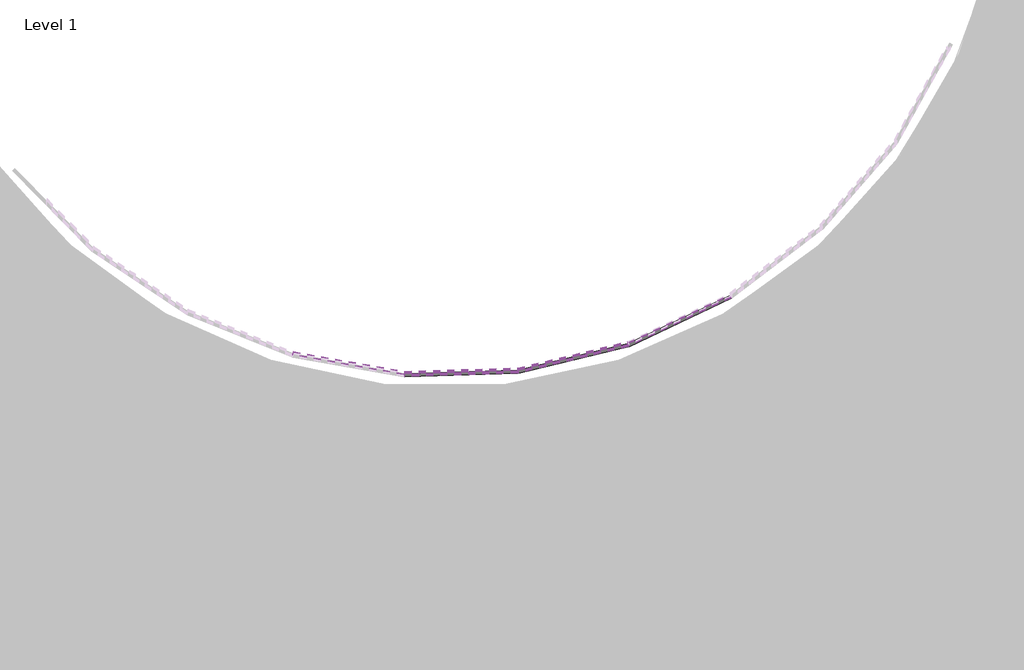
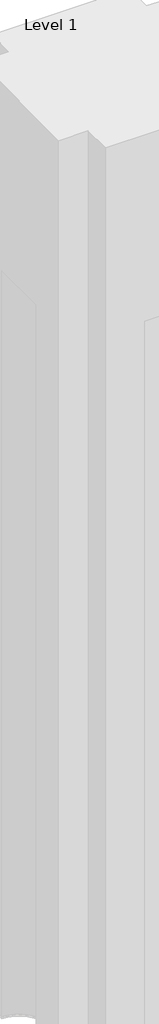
# One storey, part 18 of 20: 123 plates.
"""IFC4 building model written with IfcOpenShell, lengths in millimetres."""

from ifc_helpers import new_model, si_unit, origin, place, context, project, spatial, transform, mapped, element, save
from components import system_panel_glazed_d77d1ebf

model = new_model("IFC4")

# Units and contexts
model_context = context("Model", 3, world=origin())
ifc_project = project(units=[si_unit("LENGTHUNIT", "METRE", prefix="MILLI")], contexts=[model_context])

# Site, building, storey
site = spatial("IfcSite", under=ifc_project)
building = spatial("IfcBuilding", under=site)
storey = spatial("IfcBuildingStorey", under=building, Name="Level 1", Elevation=0.0)

# Plates
placement = place(None, origin())
system_panel_glazed_shape = system_panel_glazed_d77d1ebf(model_context)
element("IfcPlate", 1, ObjectType="System Panel : Glazed", at=placement, inside=storey, context=model_context, shape_type="MappedRepresentation", body=[
    mapped(system_panel_glazed_shape, transform((4552.3376348, 4749.7309007, 0.0), x_axis=(0.9722724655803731, 0.2338509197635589, 0.0), y_axis=(-0.2338509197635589, 0.9722724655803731, 0.0), z_axis=(0.0, 0.0, 1.0))),
])
element("IfcPlate", 2, ObjectType="System Panel : Glazed", at=placement, inside=storey, context=model_context, shape_type="MappedRepresentation", body=[
    mapped(system_panel_glazed_shape, transform((5410.1290798, 5052.2006253, 0.0), x_axis=(0.9039117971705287, 0.42771890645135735, 0.0), y_axis=(-0.42771890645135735, 0.9039117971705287, 0.0), z_axis=(0.0, 0.0, 1.0))),
])
element("IfcPlate", 3, ObjectType="System Panel : Glazed", at=placement, inside=storey, context=model_context, shape_type="MappedRepresentation", body=[
    mapped(system_panel_glazed_shape, transform((4552.3376348, 4749.7309007, 3048.0), x_axis=(0.9722724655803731, 0.2338509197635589, 0.0), y_axis=(-0.2338509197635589, 0.9722724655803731, 0.0), z_axis=(0.0, 0.0, 1.0))),
])
element("IfcPlate", 4, ObjectType="System Panel : Glazed", at=placement, inside=storey, context=model_context, shape_type="MappedRepresentation", body=[
    mapped(system_panel_glazed_shape, transform((5410.1290798, 5052.2006253, 3048.0), x_axis=(0.9039117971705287, 0.42771890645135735, 0.0), y_axis=(-0.42771890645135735, 0.9039117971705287, 0.0), z_axis=(0.0, 0.0, 1.0))),
])
element("IfcPlate", 5, ObjectType="System Panel : Glazed", at=placement, inside=storey, context=model_context, shape_type="MappedRepresentation", body=[
    mapped(system_panel_glazed_shape, transform((4552.3376348, 4749.7309007, 6096.0), x_axis=(0.9722724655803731, 0.2338509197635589, 0.0), y_axis=(-0.2338509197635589, 0.9722724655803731, 0.0), z_axis=(0.0, 0.0, 1.0))),
])
element("IfcPlate", 6, ObjectType="System Panel : Glazed", at=placement, inside=storey, context=model_context, shape_type="MappedRepresentation", body=[
    mapped(system_panel_glazed_shape, transform((5410.1290798, 5052.2006253, 6096.0), x_axis=(0.9039117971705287, 0.42771890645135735, 0.0), y_axis=(-0.42771890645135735, 0.9039117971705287, 0.0), z_axis=(0.0, 0.0, 1.0))),
])
element("IfcPlate", 7, ObjectType="System Panel : Glazed", at=placement, inside=storey, context=model_context, shape_type="MappedRepresentation", body=[
    mapped(system_panel_glazed_shape, transform((4552.3376348, 4749.7309007, 9144.0), x_axis=(0.9722724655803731, 0.2338509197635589, 0.0), y_axis=(-0.2338509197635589, 0.9722724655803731, 0.0), z_axis=(0.0, 0.0, 1.0))),
])
element("IfcPlate", 8, ObjectType="System Panel : Glazed", at=placement, inside=storey, context=model_context, shape_type="MappedRepresentation", body=[
    mapped(system_panel_glazed_shape, transform((5410.1290798, 5052.2006253, 9144.0), x_axis=(0.9039117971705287, 0.42771890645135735, 0.0), y_axis=(-0.42771890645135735, 0.9039117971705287, 0.0), z_axis=(0.0, 0.0, 1.0))),
])
element("IfcPlate", 9, ObjectType="System Panel : Glazed", at=placement, inside=storey, context=model_context, shape_type="MappedRepresentation", body=[
    mapped(system_panel_glazed_shape, transform((4552.3376348, 4749.7309007, 12192.0), x_axis=(0.9722724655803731, 0.2338509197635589, 0.0), y_axis=(-0.2338509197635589, 0.9722724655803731, 0.0), z_axis=(0.0, 0.0, 1.0))),
])
element("IfcPlate", 10, ObjectType="System Panel : Glazed", at=placement, inside=storey, context=model_context, shape_type="MappedRepresentation", body=[
    mapped(system_panel_glazed_shape, transform((5410.1290798, 5052.2006253, 12192.0), x_axis=(0.9039117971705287, 0.42771890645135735, 0.0), y_axis=(-0.42771890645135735, 0.9039117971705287, 0.0), z_axis=(0.0, 0.0, 1.0))),
])
element("IfcPlate", 11, ObjectType="System Panel : Glazed", at=placement, inside=storey, context=model_context, shape_type="MappedRepresentation", body=[
    mapped(system_panel_glazed_shape, transform((4552.3376348, 4749.7309007, 15240.0), x_axis=(0.9722724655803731, 0.2338509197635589, 0.0), y_axis=(-0.2338509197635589, 0.9722724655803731, 0.0), z_axis=(0.0, 0.0, 1.0))),
])
element("IfcPlate", 12, ObjectType="System Panel : Glazed", at=placement, inside=storey, context=model_context, shape_type="MappedRepresentation", body=[
    mapped(system_panel_glazed_shape, transform((5410.1290798, 5052.2006253, 15240.0), x_axis=(0.9039117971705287, 0.42771890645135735, 0.0), y_axis=(-0.42771890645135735, 0.9039117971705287, 0.0), z_axis=(0.0, 0.0, 1.0))),
])
element("IfcPlate", 13, ObjectType="System Panel : Glazed", at=placement, inside=storey, context=model_context, shape_type="MappedRepresentation", body=[
    mapped(system_panel_glazed_shape, transform((4552.3376348, 4749.7309007, 18288.0), x_axis=(0.9722724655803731, 0.23385091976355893, 0.0), y_axis=(-0.23385091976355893, 0.9722724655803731, 0.0), z_axis=(0.0, 0.0, 1.0))),
])
element("IfcPlate", 14, ObjectType="System Panel : Glazed", at=placement, inside=storey, context=model_context, shape_type="MappedRepresentation", body=[
    mapped(system_panel_glazed_shape, transform((5410.1290798, 5052.2006253, 18288.0), x_axis=(0.9039117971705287, 0.42771890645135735, 0.0), y_axis=(-0.42771890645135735, 0.9039117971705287, 0.0), z_axis=(0.0, 0.0, 1.0))),
])
element("IfcPlate", 15, ObjectType="System Panel : Glazed", at=placement, inside=storey, context=model_context, shape_type="MappedRepresentation", body=[
    mapped(system_panel_glazed_shape, transform((4552.3376348, 4749.7309007, 21336.0), x_axis=(0.9722724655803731, 0.2338509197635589, 0.0), y_axis=(-0.2338509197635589, 0.9722724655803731, 0.0), z_axis=(0.0, 0.0, 1.0))),
])
element("IfcPlate", 16, ObjectType="System Panel : Glazed", at=placement, inside=storey, context=model_context, shape_type="MappedRepresentation", body=[
    mapped(system_panel_glazed_shape, transform((5410.1290798, 5052.2006253, 21336.0), x_axis=(0.9039117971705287, 0.42771890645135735, 0.0), y_axis=(-0.42771890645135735, 0.9039117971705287, 0.0), z_axis=(0.0, 0.0, 1.0))),
])
element("IfcPlate", 17, ObjectType="System Panel : Glazed", at=placement, inside=storey, context=model_context, shape_type="MappedRepresentation", body=[
    mapped(system_panel_glazed_shape, transform((4552.3376348, 4749.7309007, 24384.0), x_axis=(0.9722724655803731, 0.2338509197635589, 0.0), y_axis=(-0.2338509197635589, 0.9722724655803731, 0.0), z_axis=(0.0, 0.0, 1.0))),
])
element("IfcPlate", 18, ObjectType="System Panel : Glazed", at=placement, inside=storey, context=model_context, shape_type="MappedRepresentation", body=[
    mapped(system_panel_glazed_shape, transform((5410.1290798, 5052.2006253, 24384.0), x_axis=(0.9039117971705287, 0.42771890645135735, 0.0), y_axis=(-0.42771890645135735, 0.9039117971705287, 0.0), z_axis=(0.0, 0.0, 1.0))),
])
element("IfcPlate", 19, ObjectType="System Panel : Glazed", at=placement, inside=storey, context=model_context, shape_type="MappedRepresentation", body=[
    mapped(system_panel_glazed_shape, transform((4552.3376348, 4749.7309007, 27432.0), x_axis=(0.9722724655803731, 0.2338509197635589, 0.0), y_axis=(-0.2338509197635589, 0.9722724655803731, 0.0), z_axis=(0.0, 0.0, 1.0))),
])
element("IfcPlate", 20, ObjectType="System Panel : Glazed", at=placement, inside=storey, context=model_context, shape_type="MappedRepresentation", body=[
    mapped(system_panel_glazed_shape, transform((5410.1290798, 5052.2006253, 27432.0), x_axis=(0.9039117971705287, 0.42771890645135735, 0.0), y_axis=(-0.42771890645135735, 0.9039117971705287, 0.0), z_axis=(0.0, 0.0, 1.0))),
])
element("IfcPlate", 21, ObjectType="System Panel : Glazed", at=placement, inside=storey, context=model_context, shape_type="MappedRepresentation", body=[
    mapped(system_panel_glazed_shape, transform((4552.3376348, 4749.7309007, 30480.0), x_axis=(0.9722724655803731, 0.2338509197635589, 0.0), y_axis=(-0.2338509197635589, 0.9722724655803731, 0.0), z_axis=(0.0, 0.0, 1.0))),
])
element("IfcPlate", 22, ObjectType="System Panel : Glazed", at=placement, inside=storey, context=model_context, shape_type="MappedRepresentation", body=[
    mapped(system_panel_glazed_shape, transform((5410.1290798, 5052.2006253, 30480.0), x_axis=(0.9039117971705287, 0.42771890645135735, 0.0), y_axis=(-0.42771890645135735, 0.9039117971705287, 0.0), z_axis=(0.0, 0.0, 1.0))),
])
element("IfcPlate", 23, ObjectType="System Panel : Glazed", at=placement, inside=storey, context=model_context, shape_type="MappedRepresentation", body=[
    mapped(system_panel_glazed_shape, transform((4552.3376348, 4749.7309007, 33528.0), x_axis=(0.9722724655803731, 0.2338509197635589, 0.0), y_axis=(-0.2338509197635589, 0.9722724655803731, 0.0), z_axis=(0.0, 0.0, 1.0))),
])
element("IfcPlate", 24, ObjectType="System Panel : Glazed", at=placement, inside=storey, context=model_context, shape_type="MappedRepresentation", body=[
    mapped(system_panel_glazed_shape, transform((5410.1290798, 5052.2006253, 33528.0), x_axis=(0.9039117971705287, 0.42771890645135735, 0.0), y_axis=(-0.42771890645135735, 0.9039117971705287, 0.0), z_axis=(0.0, 0.0, 1.0))),
])
element("IfcPlate", 25, ObjectType="System Panel : Glazed", at=placement, inside=storey, context=model_context, shape_type="MappedRepresentation", body=[
    mapped(system_panel_glazed_shape, transform((4552.3376348, 4749.7309007, 36576.0), x_axis=(0.9722724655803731, 0.2338509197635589, 0.0), y_axis=(-0.2338509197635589, 0.9722724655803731, 0.0), z_axis=(0.0, 0.0, 1.0))),
])
element("IfcPlate", 26, ObjectType="System Panel : Glazed", at=placement, inside=storey, context=model_context, shape_type="MappedRepresentation", body=[
    mapped(system_panel_glazed_shape, transform((5410.1290798, 5052.2006253, 36576.0), x_axis=(0.9039117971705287, 0.42771890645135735, 0.0), y_axis=(-0.42771890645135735, 0.9039117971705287, 0.0), z_axis=(0.0, 0.0, 1.0))),
])
element("IfcPlate", 27, ObjectType="System Panel : Glazed", at=placement, inside=storey, context=model_context, shape_type="MappedRepresentation", body=[
    mapped(system_panel_glazed_shape, transform((4552.3376348, 4749.7309007, 39624.0), x_axis=(0.9722724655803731, 0.2338509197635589, 0.0), y_axis=(-0.2338509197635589, 0.9722724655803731, 0.0), z_axis=(0.0, 0.0, 1.0))),
])
element("IfcPlate", 28, ObjectType="System Panel : Glazed", at=placement, inside=storey, context=model_context, shape_type="MappedRepresentation", body=[
    mapped(system_panel_glazed_shape, transform((5410.1290798, 5052.2006253, 39624.0), x_axis=(0.9039117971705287, 0.42771890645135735, 0.0), y_axis=(-0.42771890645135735, 0.9039117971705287, 0.0), z_axis=(0.0, 0.0, 1.0))),
])
element("IfcPlate", 29, ObjectType="System Panel : Glazed", at=placement, inside=storey, context=model_context, shape_type="MappedRepresentation", body=[
    mapped(system_panel_glazed_shape, transform((4552.3376348, 4749.7309007, 42672.0), x_axis=(0.9722724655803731, 0.2338509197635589, 0.0), y_axis=(-0.2338509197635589, 0.9722724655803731, 0.0), z_axis=(0.0, 0.0, 1.0))),
])
element("IfcPlate", 30, ObjectType="System Panel : Glazed", at=placement, inside=storey, context=model_context, shape_type="MappedRepresentation", body=[
    mapped(system_panel_glazed_shape, transform((5410.1290798, 5052.2006253, 42672.0), x_axis=(0.9039117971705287, 0.42771890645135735, 0.0), y_axis=(-0.42771890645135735, 0.9039117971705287, 0.0), z_axis=(0.0, 0.0, 1.0))),
])
element("IfcPlate", 31, ObjectType="System Panel : Glazed", at=placement, inside=storey, context=model_context, shape_type="MappedRepresentation", body=[
    mapped(system_panel_glazed_shape, transform((4552.3376348, 4749.7309007, 45720.0), x_axis=(0.9722724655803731, 0.2338509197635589, 0.0), y_axis=(-0.2338509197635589, 0.9722724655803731, 0.0), z_axis=(0.0, 0.0, 1.0))),
])
element("IfcPlate", 32, ObjectType="System Panel : Glazed", at=placement, inside=storey, context=model_context, shape_type="MappedRepresentation", body=[
    mapped(system_panel_glazed_shape, transform((5410.1290798, 5052.2006253, 45720.0), x_axis=(0.9039117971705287, 0.42771890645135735, 0.0), y_axis=(-0.42771890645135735, 0.9039117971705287, 0.0), z_axis=(0.0, 0.0, 1.0))),
])
element("IfcPlate", 33, ObjectType="System Panel : Glazed", at=placement, inside=storey, context=model_context, shape_type="MappedRepresentation", body=[
    mapped(system_panel_glazed_shape, transform((4552.3376348, 4749.7309007, 48768.0), x_axis=(0.9722724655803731, 0.2338509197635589, 0.0), y_axis=(-0.2338509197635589, 0.9722724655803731, 0.0), z_axis=(0.0, 0.0, 1.0))),
])
element("IfcPlate", 34, ObjectType="System Panel : Glazed", at=placement, inside=storey, context=model_context, shape_type="MappedRepresentation", body=[
    mapped(system_panel_glazed_shape, transform((5410.1290798, 5052.2006253, 48768.0), x_axis=(0.9039117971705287, 0.42771890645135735, 0.0), y_axis=(-0.42771890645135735, 0.9039117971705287, 0.0), z_axis=(0.0, 0.0, 1.0))),
])
element("IfcPlate", 35, ObjectType="System Panel : Glazed", at=placement, inside=storey, context=model_context, shape_type="MappedRepresentation", body=[
    mapped(system_panel_glazed_shape, transform((4552.3376348, 4749.7309007, 51816.0), x_axis=(0.9722724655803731, 0.2338509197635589, 0.0), y_axis=(-0.2338509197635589, 0.9722724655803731, 0.0), z_axis=(0.0, 0.0, 1.0))),
])
element("IfcPlate", 36, ObjectType="System Panel : Glazed", at=placement, inside=storey, context=model_context, shape_type="MappedRepresentation", body=[
    mapped(system_panel_glazed_shape, transform((5410.1290798, 5052.2006253, 51816.0), x_axis=(0.9039117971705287, 0.42771890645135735, 0.0), y_axis=(-0.42771890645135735, 0.9039117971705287, 0.0), z_axis=(0.0, 0.0, 1.0))),
])
element("IfcPlate", 37, ObjectType="System Panel : Glazed", at=placement, inside=storey, context=model_context, shape_type="MappedRepresentation", body=[
    mapped(system_panel_glazed_shape, transform((4552.3376348, 4749.7309007, 54864.0), x_axis=(0.9722724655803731, 0.2338509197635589, 0.0), y_axis=(-0.2338509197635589, 0.9722724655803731, 0.0), z_axis=(0.0, 0.0, 1.0))),
])
element("IfcPlate", 38, ObjectType="System Panel : Glazed", at=placement, inside=storey, context=model_context, shape_type="MappedRepresentation", body=[
    mapped(system_panel_glazed_shape, transform((5410.1290798, 5052.2006253, 54864.0), x_axis=(0.9039117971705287, 0.42771890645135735, 0.0), y_axis=(-0.42771890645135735, 0.9039117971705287, 0.0), z_axis=(0.0, 0.0, 1.0))),
])
element("IfcPlate", 39, ObjectType="System Panel : Glazed", at=placement, inside=storey, context=model_context, shape_type="MappedRepresentation", body=[
    mapped(system_panel_glazed_shape, transform((4552.3376348, 4749.7309007, 57912.0), x_axis=(0.9722724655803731, 0.2338509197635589, 0.0), y_axis=(-0.2338509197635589, 0.9722724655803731, 0.0), z_axis=(0.0, 0.0, 1.0))),
])
element("IfcPlate", 40, ObjectType="System Panel : Glazed", at=placement, inside=storey, context=model_context, shape_type="MappedRepresentation", body=[
    mapped(system_panel_glazed_shape, transform((5410.1290798, 5052.2006253, 57912.0), x_axis=(0.9039117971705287, 0.42771890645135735, 0.0), y_axis=(-0.42771890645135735, 0.9039117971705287, 0.0), z_axis=(0.0, 0.0, 1.0))),
])
element("IfcPlate", 41, ObjectType="System Panel : Glazed", at=placement, inside=storey, context=model_context, shape_type="MappedRepresentation", body=[
    mapped(system_panel_glazed_shape, transform((4552.3376348, 4749.7309007, 60960.0), x_axis=(0.9722724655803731, 0.2338509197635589, 0.0), y_axis=(-0.2338509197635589, 0.9722724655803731, 0.0), z_axis=(0.0, 0.0, 1.0))),
])
element("IfcPlate", 42, ObjectType="System Panel : Glazed", at=placement, inside=storey, context=model_context, shape_type="MappedRepresentation", body=[
    mapped(system_panel_glazed_shape, transform((5410.1290798, 5052.2006253, 60960.0), x_axis=(0.9039117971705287, 0.42771890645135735, 0.0), y_axis=(-0.42771890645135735, 0.9039117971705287, 0.0), z_axis=(0.0, 0.0, 1.0))),
])
element("IfcPlate", 43, ObjectType="System Panel : Glazed", at=placement, inside=storey, context=model_context, shape_type="MappedRepresentation", body=[
    mapped(system_panel_glazed_shape, transform((4552.3376348, 4749.7309007, 64008.0), x_axis=(0.9722724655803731, 0.2338509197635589, 0.0), y_axis=(-0.2338509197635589, 0.9722724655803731, 0.0), z_axis=(0.0, 0.0, 1.0))),
])
element("IfcPlate", 44, ObjectType="System Panel : Glazed", at=placement, inside=storey, context=model_context, shape_type="MappedRepresentation", body=[
    mapped(system_panel_glazed_shape, transform((5410.1290798, 5052.2006253, 64008.0), x_axis=(0.9039117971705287, 0.42771890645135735, 0.0), y_axis=(-0.42771890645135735, 0.9039117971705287, 0.0), z_axis=(0.0, 0.0, 1.0))),
])
element("IfcPlate", 45, ObjectType="System Panel : Glazed", at=placement, inside=storey, context=model_context, shape_type="MappedRepresentation", body=[
    mapped(system_panel_glazed_shape, transform((4552.3376348, 4749.7309007, 67056.0), x_axis=(0.9722724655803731, 0.2338509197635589, 0.0), y_axis=(-0.2338509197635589, 0.9722724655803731, 0.0), z_axis=(0.0, 0.0, 1.0))),
])
element("IfcPlate", 46, ObjectType="System Panel : Glazed", at=placement, inside=storey, context=model_context, shape_type="MappedRepresentation", body=[
    mapped(system_panel_glazed_shape, transform((5410.1290798, 5052.2006253, 67056.0), x_axis=(0.9039117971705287, 0.42771890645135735, 0.0), y_axis=(-0.42771890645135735, 0.9039117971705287, 0.0), z_axis=(0.0, 0.0, 1.0))),
])
element("IfcPlate", 47, ObjectType="System Panel : Glazed", at=placement, inside=storey, context=model_context, shape_type="MappedRepresentation", body=[
    mapped(system_panel_glazed_shape, transform((4552.3376348, 4749.7309007, 70104.0), x_axis=(0.9722724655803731, 0.2338509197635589, 0.0), y_axis=(-0.2338509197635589, 0.9722724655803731, 0.0), z_axis=(0.0, 0.0, 1.0))),
])
element("IfcPlate", 48, ObjectType="System Panel : Glazed", at=placement, inside=storey, context=model_context, shape_type="MappedRepresentation", body=[
    mapped(system_panel_glazed_shape, transform((5410.1290798, 5052.2006253, 70104.0), x_axis=(0.9039117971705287, 0.42771890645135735, 0.0), y_axis=(-0.42771890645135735, 0.9039117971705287, 0.0), z_axis=(0.0, 0.0, 1.0))),
])
element("IfcPlate", 49, ObjectType="System Panel : Glazed", at=placement, inside=storey, context=model_context, shape_type="MappedRepresentation", body=[
    mapped(system_panel_glazed_shape, transform((4552.3376348, 4749.7309007, 73152.0), x_axis=(0.9722724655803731, 0.2338509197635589, 0.0), y_axis=(-0.2338509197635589, 0.9722724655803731, 0.0), z_axis=(0.0, 0.0, 1.0))),
])
element("IfcPlate", 50, ObjectType="System Panel : Glazed", at=placement, inside=storey, context=model_context, shape_type="MappedRepresentation", body=[
    mapped(system_panel_glazed_shape, transform((5410.1290798, 5052.2006253, 73152.0), x_axis=(0.9039117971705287, 0.42771890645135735, 0.0), y_axis=(-0.42771890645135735, 0.9039117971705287, 0.0), z_axis=(0.0, 0.0, 1.0))),
])
element("IfcPlate", 51, ObjectType="System Panel : Glazed", at=placement, inside=storey, context=model_context, shape_type="MappedRepresentation", body=[
    mapped(system_panel_glazed_shape, transform((4552.3376348, 4749.7309007, 76200.0), x_axis=(0.9722724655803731, 0.2338509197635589, 0.0), y_axis=(-0.2338509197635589, 0.9722724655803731, 0.0), z_axis=(0.0, 0.0, 1.0))),
])
element("IfcPlate", 52, ObjectType="System Panel : Glazed", at=placement, inside=storey, context=model_context, shape_type="MappedRepresentation", body=[
    mapped(system_panel_glazed_shape, transform((5410.1290798, 5052.2006253, 76200.0), x_axis=(0.9039117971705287, 0.42771890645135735, 0.0), y_axis=(-0.42771890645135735, 0.9039117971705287, 0.0), z_axis=(0.0, 0.0, 1.0))),
])
element("IfcPlate", 53, ObjectType="System Panel : Glazed", at=placement, inside=storey, context=model_context, shape_type="MappedRepresentation", body=[
    mapped(system_panel_glazed_shape, transform((4552.3376348, 4749.7309007, 79248.0), x_axis=(0.9722724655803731, 0.2338509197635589, 0.0), y_axis=(-0.2338509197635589, 0.9722724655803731, 0.0), z_axis=(0.0, 0.0, 1.0))),
])
element("IfcPlate", 54, ObjectType="System Panel : Glazed", at=placement, inside=storey, context=model_context, shape_type="MappedRepresentation", body=[
    mapped(system_panel_glazed_shape, transform((5410.1290798, 5052.2006253, 79248.0), x_axis=(0.9039117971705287, 0.42771890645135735, 0.0), y_axis=(-0.42771890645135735, 0.9039117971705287, 0.0), z_axis=(0.0, 0.0, 1.0))),
])
element("IfcPlate", 55, ObjectType="System Panel : Glazed", at=placement, inside=storey, context=model_context, shape_type="MappedRepresentation", body=[
    mapped(system_panel_glazed_shape, transform((4552.3376348, 4749.7309007, 82296.0), x_axis=(0.9722724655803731, 0.2338509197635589, 0.0), y_axis=(-0.2338509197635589, 0.9722724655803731, 0.0), z_axis=(0.0, 0.0, 1.0))),
])
element("IfcPlate", 56, ObjectType="System Panel : Glazed", at=placement, inside=storey, context=model_context, shape_type="MappedRepresentation", body=[
    mapped(system_panel_glazed_shape, transform((5410.1290798, 5052.2006253, 82296.0), x_axis=(0.9039117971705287, 0.42771890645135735, 0.0), y_axis=(-0.42771890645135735, 0.9039117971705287, 0.0), z_axis=(0.0, 0.0, 1.0))),
])
element("IfcPlate", 57, ObjectType="System Panel : Glazed", at=placement, inside=storey, context=model_context, shape_type="MappedRepresentation", body=[
    mapped(system_panel_glazed_shape, transform((4552.3376348, 4749.7309007, 85344.0), x_axis=(0.9722724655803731, 0.2338509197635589, 0.0), y_axis=(-0.2338509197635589, 0.9722724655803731, 0.0), z_axis=(0.0, 0.0, 1.0))),
])
element("IfcPlate", 58, ObjectType="System Panel : Glazed", at=placement, inside=storey, context=model_context, shape_type="MappedRepresentation", body=[
    mapped(system_panel_glazed_shape, transform((5410.1290798, 5052.2006253, 85344.0), x_axis=(0.9039117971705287, 0.42771890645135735, 0.0), y_axis=(-0.42771890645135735, 0.9039117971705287, 0.0), z_axis=(0.0, 0.0, 1.0))),
])
element("IfcPlate", 59, ObjectType="System Panel : Glazed", at=placement, inside=storey, context=model_context, shape_type="MappedRepresentation", body=[
    mapped(system_panel_glazed_shape, transform((4552.3376348, 4749.7309007, 88392.0), x_axis=(0.9722724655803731, 0.2338509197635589, 0.0), y_axis=(-0.2338509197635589, 0.9722724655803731, 0.0), z_axis=(0.0, 0.0, 1.0))),
])
element("IfcPlate", 60, ObjectType="System Panel : Glazed", at=placement, inside=storey, context=model_context, shape_type="MappedRepresentation", body=[
    mapped(system_panel_glazed_shape, transform((5410.1290798, 5052.2006253, 88392.0), x_axis=(0.9039117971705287, 0.42771890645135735, 0.0), y_axis=(-0.42771890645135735, 0.9039117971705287, 0.0), z_axis=(0.0, 0.0, 1.0))),
])
element("IfcPlate", 61, ObjectType="System Panel : Glazed", at=placement, inside=storey, context=model_context, shape_type="MappedRepresentation", body=[
    mapped(system_panel_glazed_shape, transform((4552.3376348, 4749.7309007, 91440.0), x_axis=(0.9722724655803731, 0.2338509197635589, 0.0), y_axis=(-0.2338509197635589, 0.9722724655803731, 0.0), z_axis=(0.0, 0.0, 1.0))),
])
element("IfcPlate", 62, ObjectType="System Panel : Glazed", at=placement, inside=storey, context=model_context, shape_type="MappedRepresentation", body=[
    mapped(system_panel_glazed_shape, transform((4552.3376348, 4749.7309007, 94488.0), x_axis=(0.9722724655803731, 0.2338509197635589, 0.0), y_axis=(-0.2338509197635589, 0.9722724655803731, 0.0), z_axis=(0.0, 0.0, 1.0))),
])
element("IfcPlate", 63, ObjectType="System Panel : Glazed", at=placement, inside=storey, context=model_context, shape_type="MappedRepresentation", body=[
    mapped(system_panel_glazed_shape, transform((4552.3376348, 4749.7309007, 97536.0), x_axis=(0.9722724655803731, 0.2338509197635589, 0.0), y_axis=(-0.2338509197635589, 0.9722724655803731, 0.0), z_axis=(0.0, 0.0, 1.0))),
])
element("IfcPlate", 64, ObjectType="System Panel : Glazed", at=placement, inside=storey, context=model_context, shape_type="MappedRepresentation", body=[
    mapped(system_panel_glazed_shape, transform((4552.3376348, 4749.7309007, 100584.0), x_axis=(0.9722724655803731, 0.2338509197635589, 0.0), y_axis=(-0.2338509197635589, 0.9722724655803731, 0.0), z_axis=(0.0, 0.0, 1.0))),
])
element("IfcPlate", 65, ObjectType="System Panel : Glazed", at=placement, inside=storey, context=model_context, shape_type="MappedRepresentation", body=[
    mapped(system_panel_glazed_shape, transform((3650.8218363, 4629.0521442, 0.0), x_axis=(0.9995468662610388, 0.03010086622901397, 0.0), y_axis=(-0.03010086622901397, 0.9995468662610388, 0.0), z_axis=(0.0, 0.0, 1.0))),
])
element("IfcPlate", 66, ObjectType="System Panel : Glazed", at=placement, inside=storey, context=model_context, shape_type="MappedRepresentation", body=[
    mapped(system_panel_glazed_shape, transform((3650.8218363, 4629.0521442, 3048.0), x_axis=(0.9995468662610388, 0.03010086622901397, 0.0), y_axis=(-0.03010086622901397, 0.9995468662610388, 0.0), z_axis=(0.0, 0.0, 1.0))),
])
element("IfcPlate", 67, ObjectType="System Panel : Glazed", at=placement, inside=storey, context=model_context, shape_type="MappedRepresentation", body=[
    mapped(system_panel_glazed_shape, transform((3650.8218363, 4629.0521442, 6096.0), x_axis=(0.9995468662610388, 0.03010086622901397, 0.0), y_axis=(-0.03010086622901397, 0.9995468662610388, 0.0), z_axis=(0.0, 0.0, 1.0))),
])
element("IfcPlate", 68, ObjectType="System Panel : Glazed", at=placement, inside=storey, context=model_context, shape_type="MappedRepresentation", body=[
    mapped(system_panel_glazed_shape, transform((3650.8218363, 4629.0521442, 9144.0), x_axis=(0.9995468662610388, 0.03010086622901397, 0.0), y_axis=(-0.03010086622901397, 0.9995468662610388, 0.0), z_axis=(0.0, 0.0, 1.0))),
])
element("IfcPlate", 69, ObjectType="System Panel : Glazed", at=placement, inside=storey, context=model_context, shape_type="MappedRepresentation", body=[
    mapped(system_panel_glazed_shape, transform((3650.8218363, 4629.0521442, 12192.0), x_axis=(0.9995468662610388, 0.03010086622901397, 0.0), y_axis=(-0.03010086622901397, 0.9995468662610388, 0.0), z_axis=(0.0, 0.0, 1.0))),
])
element("IfcPlate", 70, ObjectType="System Panel : Glazed", at=placement, inside=storey, context=model_context, shape_type="MappedRepresentation", body=[
    mapped(system_panel_glazed_shape, transform((3650.8218363, 4629.0521442, 15240.0), x_axis=(0.9995468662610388, 0.03010086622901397, 0.0), y_axis=(-0.03010086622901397, 0.9995468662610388, 0.0), z_axis=(0.0, 0.0, 1.0))),
])
element("IfcPlate", 71, ObjectType="System Panel : Glazed", at=placement, inside=storey, context=model_context, shape_type="MappedRepresentation", body=[
    mapped(system_panel_glazed_shape, transform((3650.8218363, 4629.0521442, 18288.0), x_axis=(0.9995468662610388, 0.03010086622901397, 0.0), y_axis=(-0.03010086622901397, 0.9995468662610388, 0.0), z_axis=(0.0, 0.0, 1.0))),
])
element("IfcPlate", 72, ObjectType="System Panel : Glazed", at=placement, inside=storey, context=model_context, shape_type="MappedRepresentation", body=[
    mapped(system_panel_glazed_shape, transform((3650.8218363, 4629.0521442, 21336.0), x_axis=(0.9995468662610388, 0.03010086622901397, 0.0), y_axis=(-0.03010086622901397, 0.9995468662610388, 0.0), z_axis=(0.0, 0.0, 1.0))),
])
element("IfcPlate", 73, ObjectType="System Panel : Glazed", at=placement, inside=storey, context=model_context, shape_type="MappedRepresentation", body=[
    mapped(system_panel_glazed_shape, transform((3650.8218363, 4629.0521442, 24384.0), x_axis=(0.9995468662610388, 0.03010086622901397, 0.0), y_axis=(-0.03010086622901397, 0.9995468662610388, 0.0), z_axis=(0.0, 0.0, 1.0))),
])
element("IfcPlate", 74, ObjectType="System Panel : Glazed", at=placement, inside=storey, context=model_context, shape_type="MappedRepresentation", body=[
    mapped(system_panel_glazed_shape, transform((3650.8218363, 4629.0521442, 27432.0), x_axis=(0.9995468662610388, 0.03010086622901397, 0.0), y_axis=(-0.03010086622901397, 0.9995468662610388, 0.0), z_axis=(0.0, 0.0, 1.0))),
])
element("IfcPlate", 75, ObjectType="System Panel : Glazed", at=placement, inside=storey, context=model_context, shape_type="MappedRepresentation", body=[
    mapped(system_panel_glazed_shape, transform((3650.8218363, 4629.0521442, 30480.0), x_axis=(0.9995468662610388, 0.03010086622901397, 0.0), y_axis=(-0.03010086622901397, 0.9995468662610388, 0.0), z_axis=(0.0, 0.0, 1.0))),
])
element("IfcPlate", 76, ObjectType="System Panel : Glazed", at=placement, inside=storey, context=model_context, shape_type="MappedRepresentation", body=[
    mapped(system_panel_glazed_shape, transform((3650.8218363, 4629.0521442, 33528.0), x_axis=(0.9995468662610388, 0.03010086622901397, 0.0), y_axis=(-0.03010086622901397, 0.9995468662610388, 0.0), z_axis=(0.0, 0.0, 1.0))),
])
element("IfcPlate", 77, ObjectType="System Panel : Glazed", at=placement, inside=storey, context=model_context, shape_type="MappedRepresentation", body=[
    mapped(system_panel_glazed_shape, transform((3650.8218363, 4629.0521442, 36576.0), x_axis=(0.9995468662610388, 0.03010086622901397, 0.0), y_axis=(-0.03010086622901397, 0.9995468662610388, 0.0), z_axis=(0.0, 0.0, 1.0))),
])
element("IfcPlate", 78, ObjectType="System Panel : Glazed", at=placement, inside=storey, context=model_context, shape_type="MappedRepresentation", body=[
    mapped(system_panel_glazed_shape, transform((3650.8218363, 4629.0521442, 39624.0), x_axis=(0.9995468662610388, 0.03010086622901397, 0.0), y_axis=(-0.03010086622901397, 0.9995468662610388, 0.0), z_axis=(0.0, 0.0, 1.0))),
])
element("IfcPlate", 79, ObjectType="System Panel : Glazed", at=placement, inside=storey, context=model_context, shape_type="MappedRepresentation", body=[
    mapped(system_panel_glazed_shape, transform((3650.8218363, 4629.0521442, 42672.0), x_axis=(0.9995468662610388, 0.03010086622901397, 0.0), y_axis=(-0.03010086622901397, 0.9995468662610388, 0.0), z_axis=(0.0, 0.0, 1.0))),
])
element("IfcPlate", 80, ObjectType="System Panel : Glazed", at=placement, inside=storey, context=model_context, shape_type="MappedRepresentation", body=[
    mapped(system_panel_glazed_shape, transform((3650.8218363, 4629.0521442, 45720.0), x_axis=(0.9995468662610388, 0.03010086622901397, 0.0), y_axis=(-0.03010086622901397, 0.9995468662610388, 0.0), z_axis=(0.0, 0.0, 1.0))),
])
element("IfcPlate", 81, ObjectType="System Panel : Glazed", at=placement, inside=storey, context=model_context, shape_type="MappedRepresentation", body=[
    mapped(system_panel_glazed_shape, transform((3650.8218363, 4629.0521442, 48768.0), x_axis=(0.9995468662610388, 0.03010086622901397, 0.0), y_axis=(-0.03010086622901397, 0.9995468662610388, 0.0), z_axis=(0.0, 0.0, 1.0))),
])
element("IfcPlate", 82, ObjectType="System Panel : Glazed", at=placement, inside=storey, context=model_context, shape_type="MappedRepresentation", body=[
    mapped(system_panel_glazed_shape, transform((3650.8218363, 4629.0521442, 51816.0), x_axis=(0.9995468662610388, 0.03010086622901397, 0.0), y_axis=(-0.03010086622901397, 0.9995468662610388, 0.0), z_axis=(0.0, 0.0, 1.0))),
])
element("IfcPlate", 83, ObjectType="System Panel : Glazed", at=placement, inside=storey, context=model_context, shape_type="MappedRepresentation", body=[
    mapped(system_panel_glazed_shape, transform((3650.8218363, 4629.0521442, 54864.0), x_axis=(0.9995468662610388, 0.03010086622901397, 0.0), y_axis=(-0.03010086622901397, 0.9995468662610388, 0.0), z_axis=(0.0, 0.0, 1.0))),
])
element("IfcPlate", 84, ObjectType="System Panel : Glazed", at=placement, inside=storey, context=model_context, shape_type="MappedRepresentation", body=[
    mapped(system_panel_glazed_shape, transform((3650.8218363, 4629.0521442, 57912.0), x_axis=(0.9995468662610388, 0.03010086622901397, 0.0), y_axis=(-0.03010086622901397, 0.9995468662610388, 0.0), z_axis=(0.0, 0.0, 1.0))),
])
element("IfcPlate", 85, ObjectType="System Panel : Glazed", at=placement, inside=storey, context=model_context, shape_type="MappedRepresentation", body=[
    mapped(system_panel_glazed_shape, transform((3650.8218363, 4629.0521442, 60960.0), x_axis=(0.9995468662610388, 0.03010086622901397, 0.0), y_axis=(-0.03010086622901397, 0.9995468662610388, 0.0), z_axis=(0.0, 0.0, 1.0))),
])
element("IfcPlate", 86, ObjectType="System Panel : Glazed", at=placement, inside=storey, context=model_context, shape_type="MappedRepresentation", body=[
    mapped(system_panel_glazed_shape, transform((3650.8218363, 4629.0521442, 64008.0), x_axis=(0.9995468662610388, 0.03010086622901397, 0.0), y_axis=(-0.03010086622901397, 0.9995468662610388, 0.0), z_axis=(0.0, 0.0, 1.0))),
])
element("IfcPlate", 87, ObjectType="System Panel : Glazed", at=placement, inside=storey, context=model_context, shape_type="MappedRepresentation", body=[
    mapped(system_panel_glazed_shape, transform((3650.8218363, 4629.0521442, 67056.0), x_axis=(0.9995468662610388, 0.03010086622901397, 0.0), y_axis=(-0.03010086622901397, 0.9995468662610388, 0.0), z_axis=(0.0, 0.0, 1.0))),
])
element("IfcPlate", 88, ObjectType="System Panel : Glazed", at=placement, inside=storey, context=model_context, shape_type="MappedRepresentation", body=[
    mapped(system_panel_glazed_shape, transform((3650.8218363, 4629.0521442, 70104.0), x_axis=(0.9995468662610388, 0.03010086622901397, 0.0), y_axis=(-0.03010086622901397, 0.9995468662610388, 0.0), z_axis=(0.0, 0.0, 1.0))),
])
element("IfcPlate", 89, ObjectType="System Panel : Glazed", at=placement, inside=storey, context=model_context, shape_type="MappedRepresentation", body=[
    mapped(system_panel_glazed_shape, transform((3650.8218363, 4629.0521442, 73152.0), x_axis=(0.9995468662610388, 0.03010086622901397, 0.0), y_axis=(-0.03010086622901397, 0.9995468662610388, 0.0), z_axis=(0.0, 0.0, 1.0))),
])
element("IfcPlate", 90, ObjectType="System Panel : Glazed", at=placement, inside=storey, context=model_context, shape_type="MappedRepresentation", body=[
    mapped(system_panel_glazed_shape, transform((3650.8218363, 4629.0521442, 76200.0), x_axis=(0.9995468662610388, 0.03010086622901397, 0.0), y_axis=(-0.03010086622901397, 0.9995468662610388, 0.0), z_axis=(0.0, 0.0, 1.0))),
])
element("IfcPlate", 91, ObjectType="System Panel : Glazed", at=placement, inside=storey, context=model_context, shape_type="MappedRepresentation", body=[
    mapped(system_panel_glazed_shape, transform((3650.8218363, 4629.0521442, 79248.0), x_axis=(0.9995468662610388, 0.03010086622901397, 0.0), y_axis=(-0.03010086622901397, 0.9995468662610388, 0.0), z_axis=(0.0, 0.0, 1.0))),
])
element("IfcPlate", 92, ObjectType="System Panel : Glazed", at=placement, inside=storey, context=model_context, shape_type="MappedRepresentation", body=[
    mapped(system_panel_glazed_shape, transform((3650.8218363, 4629.0521442, 82296.0), x_axis=(0.9995468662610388, 0.03010086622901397, 0.0), y_axis=(-0.03010086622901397, 0.9995468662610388, 0.0), z_axis=(0.0, 0.0, 1.0))),
])
element("IfcPlate", 93, ObjectType="System Panel : Glazed", at=placement, inside=storey, context=model_context, shape_type="MappedRepresentation", body=[
    mapped(system_panel_glazed_shape, transform((3650.8218363, 4629.0521442, 85344.0), x_axis=(0.9995468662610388, 0.03010086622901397, 0.0), y_axis=(-0.03010086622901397, 0.9995468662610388, 0.0), z_axis=(0.0, 0.0, 1.0))),
])
element("IfcPlate", 94, ObjectType="System Panel : Glazed", at=placement, inside=storey, context=model_context, shape_type="MappedRepresentation", body=[
    mapped(system_panel_glazed_shape, transform((3650.8218363, 4629.0521442, 88392.0), x_axis=(0.9995468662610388, 0.03010086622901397, 0.0), y_axis=(-0.03010086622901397, 0.9995468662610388, 0.0), z_axis=(0.0, 0.0, 1.0))),
])
element("IfcPlate", 95, ObjectType="System Panel : Glazed", at=placement, inside=storey, context=model_context, shape_type="MappedRepresentation", body=[
    mapped(system_panel_glazed_shape, transform((3650.8218363, 4629.0521442, 91440.0), x_axis=(0.9995468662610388, 0.03010086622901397, 0.0), y_axis=(-0.03010086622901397, 0.9995468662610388, 0.0), z_axis=(0.0, 0.0, 1.0))),
])
element("IfcPlate", 96, ObjectType="System Panel : Glazed", at=placement, inside=storey, context=model_context, shape_type="MappedRepresentation", body=[
    mapped(system_panel_glazed_shape, transform((3650.8218363, 4629.0521442, 94488.0), x_axis=(0.9995468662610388, 0.03010086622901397, 0.0), y_axis=(-0.03010086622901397, 0.9995468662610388, 0.0), z_axis=(0.0, 0.0, 1.0))),
])
element("IfcPlate", 97, ObjectType="System Panel : Glazed", at=placement, inside=storey, context=model_context, shape_type="MappedRepresentation", body=[
    mapped(system_panel_glazed_shape, transform((3650.8218363, 4629.0521442, 97536.0), x_axis=(0.9995468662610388, 0.03010086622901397, 0.0), y_axis=(-0.03010086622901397, 0.9995468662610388, 0.0), z_axis=(0.0, 0.0, 1.0))),
])
element("IfcPlate", 98, ObjectType="System Panel : Glazed", at=placement, inside=storey, context=model_context, shape_type="MappedRepresentation", body=[
    mapped(system_panel_glazed_shape, transform((3650.8218363, 4629.0521442, 100584.0), x_axis=(0.9995468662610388, 0.03010086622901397, 0.0), y_axis=(-0.03010086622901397, 0.9995468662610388, 0.0), z_axis=(0.0, 0.0, 1.0))),
])
element("IfcPlate", 99, ObjectType="System Panel : Glazed", at=placement, inside=storey, context=model_context, shape_type="MappedRepresentation", body=[
    mapped(system_panel_glazed_shape, transform((2743.6779183, 4695.2639957, 82296.0), x_axis=(0.9845824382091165, -0.17492118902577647, 0.0), y_axis=(0.17492118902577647, 0.9845824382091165, 0.0), z_axis=(0.0, 0.0, 1.0))),
])
element("IfcPlate", 100, ObjectType="System Panel : Glazed", at=placement, inside=storey, context=model_context, shape_type="MappedRepresentation", body=[
    mapped(system_panel_glazed_shape, transform((2743.6779183, 4695.2639957, 85344.0), x_axis=(0.9845824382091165, -0.17492118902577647, 0.0), y_axis=(0.17492118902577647, 0.9845824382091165, 0.0), z_axis=(0.0, 0.0, 1.0))),
])
element("IfcPlate", 101, ObjectType="System Panel : Glazed", at=placement, inside=storey, context=model_context, shape_type="MappedRepresentation", body=[
    mapped(system_panel_glazed_shape, transform((2743.6779183, 4695.2639957, 88392.0), x_axis=(0.9845824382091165, -0.17492118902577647, 0.0), y_axis=(0.17492118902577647, 0.9845824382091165, 0.0), z_axis=(0.0, 0.0, 1.0))),
])
element("IfcPlate", 102, ObjectType="System Panel : Glazed", at=placement, inside=storey, context=model_context, shape_type="MappedRepresentation", body=[
    mapped(system_panel_glazed_shape, transform((2743.6779183, 4695.2639957, 91440.0), x_axis=(0.9845824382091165, -0.17492118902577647, 0.0), y_axis=(0.17492118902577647, 0.9845824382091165, 0.0), z_axis=(0.0, 0.0, 1.0))),
])
element("IfcPlate", 103, ObjectType="System Panel : Glazed", at=placement, inside=storey, context=model_context, shape_type="MappedRepresentation", body=[
    mapped(system_panel_glazed_shape, transform((2743.6779183, 4695.2639957, 94488.0), x_axis=(0.9845824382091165, -0.17492118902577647, 0.0), y_axis=(0.17492118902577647, 0.9845824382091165, 0.0), z_axis=(0.0, 0.0, 1.0))),
])
element("IfcPlate", 104, ObjectType="System Panel : Glazed", at=placement, inside=storey, context=model_context, shape_type="MappedRepresentation", body=[
    mapped(system_panel_glazed_shape, transform((2743.6779183, 4695.2639957, 97536.0), x_axis=(0.9845824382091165, -0.17492118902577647, 0.0), y_axis=(0.17492118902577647, 0.9845824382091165, 0.0), z_axis=(0.0, 0.0, 1.0))),
])
element("IfcPlate", 105, ObjectType="System Panel : Glazed", at=placement, inside=storey, context=model_context, shape_type="MappedRepresentation", body=[
    mapped(system_panel_glazed_shape, transform((2743.6779183, 4695.2639957, 100584.0), x_axis=(0.9845824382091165, -0.17492118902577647, 0.0), y_axis=(0.17492118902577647, 0.9845824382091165, 0.0), z_axis=(0.0, 0.0, 1.0))),
])
element("IfcPlate", 106, ObjectType="System Panel : Glazed", at=placement, inside=storey, context=model_context, shape_type="MappedRepresentation", body=[
    mapped(system_panel_glazed_shape, transform((3650.8218363, 4629.0521442, 103632.0), x_axis=(0.9995468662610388, 0.03010086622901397, 0.0), y_axis=(-0.03010086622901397, 0.9995468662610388, 0.0), z_axis=(0.0, 0.0, 1.0))),
])
element("IfcPlate", 107, ObjectType="System Panel : Glazed", at=placement, inside=storey, context=model_context, shape_type="MappedRepresentation", body=[
    mapped(system_panel_glazed_shape, transform((2743.6779183, 4695.2639957, 103632.0), x_axis=(0.9845824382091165, -0.17492118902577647, 0.0), y_axis=(0.17492118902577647, 0.9845824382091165, 0.0), z_axis=(0.0, 0.0, 1.0))),
])
element("IfcPlate", 108, ObjectType="System Panel : Glazed", at=placement, inside=storey, context=model_context, shape_type="MappedRepresentation", body=[
    mapped(system_panel_glazed_shape, transform((4552.3376348, 4749.7309007, 103632.0), x_axis=(0.9722724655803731, 0.2338509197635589, 0.0), y_axis=(-0.2338509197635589, 0.9722724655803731, 0.0), z_axis=(0.0, 0.0, 1.0))),
])
element("IfcPlate", 109, ObjectType="System Panel : Glazed", at=placement, inside=storey, context=model_context, shape_type="MappedRepresentation", body=[
    mapped(system_panel_glazed_shape, transform((3650.8218363, 4629.0521442, 106680.0), x_axis=(0.9995468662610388, 0.03010086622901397, 0.0), y_axis=(-0.03010086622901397, 0.9995468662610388, 0.0), z_axis=(0.0, 0.0, 1.0))),
])
element("IfcPlate", 110, ObjectType="System Panel : Glazed", at=placement, inside=storey, context=model_context, shape_type="MappedRepresentation", body=[
    mapped(system_panel_glazed_shape, transform((2743.6779183, 4695.2639957, 106680.0), x_axis=(0.9845824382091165, -0.17492118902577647, 0.0), y_axis=(0.17492118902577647, 0.9845824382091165, 0.0), z_axis=(0.0, 0.0, 1.0))),
])
element("IfcPlate", 111, ObjectType="System Panel : Glazed", at=placement, inside=storey, context=model_context, shape_type="MappedRepresentation", body=[
    mapped(system_panel_glazed_shape, transform((4552.3376348, 4749.7309007, 106680.0), x_axis=(0.9722724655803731, 0.2338509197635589, 0.0), y_axis=(-0.2338509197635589, 0.9722724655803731, 0.0), z_axis=(0.0, 0.0, 1.0))),
])
element("IfcPlate", 112, ObjectType="System Panel : Glazed", at=placement, inside=storey, context=model_context, shape_type="MappedRepresentation", body=[
    mapped(system_panel_glazed_shape, transform((3650.8218363, 4629.0521442, 109728.0), x_axis=(0.9995468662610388, 0.03010086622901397, 0.0), y_axis=(-0.03010086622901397, 0.9995468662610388, 0.0), z_axis=(0.0, 0.0, 1.0))),
])
element("IfcPlate", 113, ObjectType="System Panel : Glazed", at=placement, inside=storey, context=model_context, shape_type="MappedRepresentation", body=[
    mapped(system_panel_glazed_shape, transform((2743.6779183, 4695.2639957, 109728.0), x_axis=(0.9845824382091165, -0.17492118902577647, 0.0), y_axis=(0.17492118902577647, 0.9845824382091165, 0.0), z_axis=(0.0, 0.0, 1.0))),
])
element("IfcPlate", 114, ObjectType="System Panel : Glazed", at=placement, inside=storey, context=model_context, shape_type="MappedRepresentation", body=[
    mapped(system_panel_glazed_shape, transform((4552.3376348, 4749.7309007, 109728.0), x_axis=(0.9722724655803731, 0.2338509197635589, 0.0), y_axis=(-0.2338509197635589, 0.9722724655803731, 0.0), z_axis=(0.0, 0.0, 1.0))),
])
element("IfcPlate", 115, ObjectType="System Panel : Glazed", at=placement, inside=storey, context=model_context, shape_type="MappedRepresentation", body=[
    mapped(system_panel_glazed_shape, transform((3650.8218363, 4629.0521442, 112776.0), x_axis=(0.9995468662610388, 0.03010086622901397, 0.0), y_axis=(-0.03010086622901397, 0.9995468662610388, 0.0), z_axis=(0.0, 0.0, 1.0))),
])
element("IfcPlate", 116, ObjectType="System Panel : Glazed", at=placement, inside=storey, context=model_context, shape_type="MappedRepresentation", body=[
    mapped(system_panel_glazed_shape, transform((2743.6779183, 4695.2639957, 112776.0), x_axis=(0.9845824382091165, -0.17492118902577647, 0.0), y_axis=(0.17492118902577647, 0.9845824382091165, 0.0), z_axis=(0.0, 0.0, 1.0))),
])
element("IfcPlate", 117, ObjectType="System Panel : Glazed", at=placement, inside=storey, context=model_context, shape_type="MappedRepresentation", body=[
    mapped(system_panel_glazed_shape, transform((4552.3376348, 4749.7309007, 112776.0), x_axis=(0.9722724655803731, 0.2338509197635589, 0.0), y_axis=(-0.2338509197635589, 0.9722724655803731, 0.0), z_axis=(0.0, 0.0, 1.0))),
])
element("IfcPlate", 118, ObjectType="System Panel : Glazed", at=placement, inside=storey, context=model_context, shape_type="MappedRepresentation", body=[
    mapped(system_panel_glazed_shape, transform((3650.8218363, 4629.0521442, 115824.0), x_axis=(0.9995468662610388, 0.03010086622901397, 0.0), y_axis=(-0.03010086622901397, 0.9995468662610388, 0.0), z_axis=(0.0, 0.0, 1.0))),
])
element("IfcPlate", 119, ObjectType="System Panel : Glazed", at=placement, inside=storey, context=model_context, shape_type="MappedRepresentation", body=[
    mapped(system_panel_glazed_shape, transform((2743.6779183, 4695.2639957, 115824.0), x_axis=(0.9845824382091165, -0.17492118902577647, 0.0), y_axis=(0.17492118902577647, 0.9845824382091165, 0.0), z_axis=(0.0, 0.0, 1.0))),
])
element("IfcPlate", 120, ObjectType="System Panel : Glazed", at=placement, inside=storey, context=model_context, shape_type="MappedRepresentation", body=[
    mapped(system_panel_glazed_shape, transform((4552.3376348, 4749.7309007, 115824.0), x_axis=(0.9722724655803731, 0.2338509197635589, 0.0), y_axis=(-0.2338509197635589, 0.9722724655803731, 0.0), z_axis=(0.0, 0.0, 1.0))),
])
element("IfcPlate", 121, ObjectType="System Panel : Glazed", at=placement, inside=storey, context=model_context, shape_type="MappedRepresentation", body=[
    mapped(system_panel_glazed_shape, transform((3650.8218363, 4629.0521442, 118872.0), x_axis=(0.9995468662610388, 0.03010086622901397, 0.0), y_axis=(-0.03010086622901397, 0.9995468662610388, 0.0), z_axis=(0.0, 0.0, 1.0))),
])
element("IfcPlate", 122, ObjectType="System Panel : Glazed", at=placement, inside=storey, context=model_context, shape_type="MappedRepresentation", body=[
    mapped(system_panel_glazed_shape, transform((2743.6779183, 4695.2639957, 118872.0), x_axis=(0.9845824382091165, -0.17492118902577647, 0.0), y_axis=(0.17492118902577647, 0.9845824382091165, 0.0), z_axis=(0.0, 0.0, 1.0))),
])
element("IfcPlate", 123, ObjectType="System Panel : Glazed", at=placement, inside=storey, context=model_context, shape_type="MappedRepresentation", body=[
    mapped(system_panel_glazed_shape, transform((4552.3376348, 4749.7309007, 118872.0), x_axis=(0.9722724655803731, 0.2338509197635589, 0.0), y_axis=(-0.2338509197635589, 0.9722724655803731, 0.0), z_axis=(0.0, 0.0, 1.0))),
])

save(model, "model.ifc")
